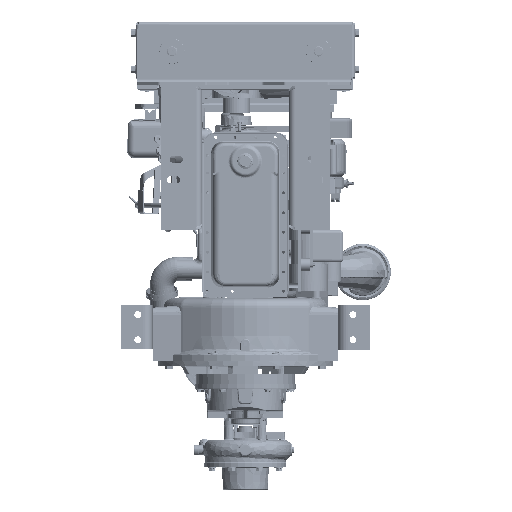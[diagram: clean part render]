
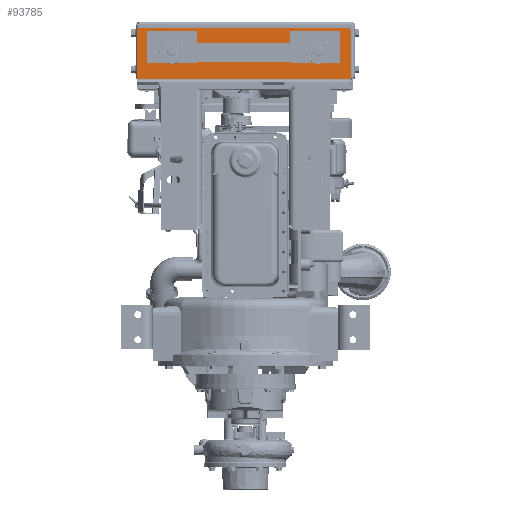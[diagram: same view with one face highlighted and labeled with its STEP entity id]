
A CAD part, front view. The second image highlights one B-rep face of the part: STEP entity #93785.
In plain terms, the highlighted planar face has unit normal (0, -1, 0).
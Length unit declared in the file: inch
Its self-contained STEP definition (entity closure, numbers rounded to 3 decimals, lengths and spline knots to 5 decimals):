
#2931 = LINE ( 'NONE', #409925, #7271 ) ;
#7271 = VECTOR ( 'NONE', #525642, 39.37008 ) ;
#10963 = EDGE_CURVE ( 'NONE', #174806, #541785, #72709, .T. ) ;
#15393 = VECTOR ( 'NONE', #193290, 39.37008 ) ;
#22548 = CARTESIAN_POINT ( 'NONE',  ( -8.63, -4.72, 17.34 ) ) ;
#27121 = CARTESIAN_POINT ( 'NONE',  ( -6.08, -4.72, 19.8849 ) ) ;
#28602 = LINE ( 'NONE', #701151, #124935 ) ;
#30512 = VECTOR ( 'NONE', #666394, 39.37008 ) ;
#34589 = CIRCLE ( 'NONE', #607308, 0.25 ) ;
#41297 = VECTOR ( 'NONE', #658486, 39.37008 ) ;
#41631 = EDGE_CURVE ( 'NONE', #526383, #695589, #485634, .T. ) ;
#49605 = VERTEX_POINT ( 'NONE', #556599 ) ;
#54789 = EDGE_CURVE ( 'NONE', #441894, #124240, #79648, .T. ) ;
#56075 = AXIS2_PLACEMENT_3D ( 'NONE', #243273, #639318, #344244 ) ;
#63020 = DIRECTION ( 'NONE',  ( 0., -1., 0. ) ) ;
#72709 = CIRCLE ( 'NONE', #490207, 0.625 ) ;
#74589 = CARTESIAN_POINT ( 'NONE',  ( 5.82, -4.72, 19.2599 ) ) ;
#79648 = LINE ( 'NONE', #718239, #41297 ) ;
#83544 = EDGE_LOOP ( 'NONE', ( #545011, #354484, #731117, #672378 ) ) ;
#90172 = CARTESIAN_POINT ( 'NONE',  ( 5.82, -4.72, 19.8849 ) ) ;
#93785 = ADVANCED_FACE ( 'NONE', ( #519776, #407699, #523427 ), #190837, .T. ) ;
#100332 = EDGE_CURVE ( 'NONE', #201115, #714350, #454104, .T. ) ;
#123210 = EDGE_CURVE ( 'NONE', #433176, #513199, #333793, .T. ) ;
#124240 = VERTEX_POINT ( 'NONE', #485491 ) ;
#124935 = VECTOR ( 'NONE', #413548, 39.37008 ) ;
#150938 = LINE ( 'NONE', #494531, #30512 ) ;
#174806 = VERTEX_POINT ( 'NONE', #677448 ) ;
#190837 = PLANE ( 'NONE',  #56075 ) ;
#193290 = DIRECTION ( 'NONE',  ( -1., 0., 0. ) ) ;
#194807 = CARTESIAN_POINT ( 'NONE',  ( -6.08, -4.72, 19.2599 ) ) ;
#201115 = VERTEX_POINT ( 'NONE', #225684 ) ;
#213478 = CARTESIAN_POINT ( 'NONE',  ( -8.63, -4.72, 21.1889 ) ) ;
#225684 = CARTESIAN_POINT ( 'NONE',  ( -8.38, -4.72, 21.4389 ) ) ;
#238446 = AXIS2_PLACEMENT_3D ( 'NONE', #90172, #317940, #489756 ) ;
#243273 = CARTESIAN_POINT ( 'NONE',  ( 8.37, -4.72, 21.4389 ) ) ;
#243667 = EDGE_CURVE ( 'NONE', #201115, #695589, #34589, .T. ) ;
#249564 = VECTOR ( 'NONE', #643243, 39.37008 ) ;
#254021 = EDGE_LOOP ( 'NONE', ( #642612, #259344, #728717, #473194, #714386, #540490 ) ) ;
#259344 = ORIENTED_EDGE ( 'NONE', *, *, #243667, .T. ) ;
#265178 = CARTESIAN_POINT ( 'NONE',  ( 5.82, -4.72, 20.5099 ) ) ;
#272884 = CIRCLE ( 'NONE', #630773, 0.625 ) ;
#287088 = DIRECTION ( 'NONE',  ( 1., 0., 0. ) ) ;
#292787 = CARTESIAN_POINT ( 'NONE',  ( 5.57, -4.72, 19.8849 ) ) ;
#293782 = ORIENTED_EDGE ( 'NONE', *, *, #355730, .T. ) ;
#295026 = CARTESIAN_POINT ( 'NONE',  ( 8.37, -4.72, 17.34 ) ) ;
#295340 = DIRECTION ( 'NONE',  ( 0., 1., 0. ) ) ;
#317940 = DIRECTION ( 'NONE',  ( 0., 1., 0. ) ) ;
#333793 = CIRCLE ( 'NONE', #238446, 0.625 ) ;
#344244 = DIRECTION ( 'NONE',  ( 0., 0., -1. ) ) ;
#352503 = DIRECTION ( 'NONE',  ( 0., 1., 0. ) ) ;
#354484 = ORIENTED_EDGE ( 'NONE', *, *, #423540, .F. ) ;
#355730 = EDGE_CURVE ( 'NONE', #555172, #404858, #272884, .T. ) ;
#364208 = VERTEX_POINT ( 'NONE', #378521 ) ;
#378521 = CARTESIAN_POINT ( 'NONE',  ( 5.57, -4.72, 20.5099 ) ) ;
#381801 = CARTESIAN_POINT ( 'NONE',  ( -6.08, -4.72, 20.5099 ) ) ;
#399217 = CARTESIAN_POINT ( 'NONE',  ( 8.12, -4.72, 21.1889 ) ) ;
#404858 = VERTEX_POINT ( 'NONE', #596804 ) ;
#406505 = CIRCLE ( 'NONE', #561639, 0.625 ) ;
#407474 = CARTESIAN_POINT ( 'NONE',  ( -5.83, -4.72, 19.8849 ) ) ;
#407699 = FACE_BOUND ( 'NONE', #487164, .T. ) ;
#409925 = CARTESIAN_POINT ( 'NONE',  ( -5.83, -4.72, 20.5099 ) ) ;
#411817 = EDGE_CURVE ( 'NONE', #174806, #404858, #512689, .T. ) ;
#413548 = DIRECTION ( 'NONE',  ( 1., 0., 0. ) ) ;
#421201 = ORIENTED_EDGE ( 'NONE', *, *, #411817, .F. ) ;
#423540 = EDGE_CURVE ( 'NONE', #433176, #364208, #469887, .T. ) ;
#433176 = VERTEX_POINT ( 'NONE', #265178 ) ;
#441894 = VERTEX_POINT ( 'NONE', #295026 ) ;
#454104 = LINE ( 'NONE', #622251, #512937 ) ;
#469887 = LINE ( 'NONE', #477208, #15393 ) ;
#473194 = ORIENTED_EDGE ( 'NONE', *, *, #735216, .F. ) ;
#475109 = EDGE_CURVE ( 'NONE', #555172, #541785, #2931, .T. ) ;
#477208 = CARTESIAN_POINT ( 'NONE',  ( 5.82, -4.72, 20.5099 ) ) ;
#485491 = CARTESIAN_POINT ( 'NONE',  ( 8.37, -4.72, 21.1889 ) ) ;
#485634 = LINE ( 'NONE', #22548, #731721 ) ;
#487164 = EDGE_LOOP ( 'NONE', ( #569432, #551571, #293782, #421201 ) ) ;
#489756 = DIRECTION ( 'NONE',  ( 0., 0., 1. ) ) ;
#490207 = AXIS2_PLACEMENT_3D ( 'NONE', #27121, #546190, #718083 ) ;
#490448 = CARTESIAN_POINT ( 'NONE',  ( -8.38, -4.72, 21.1889 ) ) ;
#490682 = CARTESIAN_POINT ( 'NONE',  ( -8.63, -4.72, 17.34 ) ) ;
#494531 = CARTESIAN_POINT ( 'NONE',  ( 8.37, -4.72, 17.34 ) ) ;
#512689 = LINE ( 'NONE', #194807, #249564 ) ;
#512937 = VECTOR ( 'NONE', #629637, 39.37008 ) ;
#513199 = VERTEX_POINT ( 'NONE', #74589 ) ;
#516308 = CIRCLE ( 'NONE', #671572, 0.25 ) ;
#519776 = FACE_BOUND ( 'NONE', #83544, .T. ) ;
#523427 = FACE_OUTER_BOUND ( 'NONE', #254021, .T. ) ;
#525642 = DIRECTION ( 'NONE',  ( -1., 0., 0. ) ) ;
#526383 = VERTEX_POINT ( 'NONE', #490682 ) ;
#540490 = ORIENTED_EDGE ( 'NONE', *, *, #570216, .T. ) ;
#541785 = VERTEX_POINT ( 'NONE', #381801 ) ;
#545011 = ORIENTED_EDGE ( 'NONE', *, *, #615162, .T. ) ;
#546190 = DIRECTION ( 'NONE',  ( 0., 1., 0. ) ) ;
#546504 = DIRECTION ( 'NONE',  ( 0., -1., 0. ) ) ;
#551571 = ORIENTED_EDGE ( 'NONE', *, *, #475109, .F. ) ;
#555172 = VERTEX_POINT ( 'NONE', #649257 ) ;
#556599 = CARTESIAN_POINT ( 'NONE',  ( 5.57, -4.72, 19.2599 ) ) ;
#561639 = AXIS2_PLACEMENT_3D ( 'NONE', #292787, #352503, #580433 ) ;
#569432 = ORIENTED_EDGE ( 'NONE', *, *, #10963, .T. ) ;
#570216 = EDGE_CURVE ( 'NONE', #124240, #714350, #516308, .T. ) ;
#580433 = DIRECTION ( 'NONE',  ( 0., 0., -1. ) ) ;
#594042 = DIRECTION ( 'NONE',  ( 0., 0., 1. ) ) ;
#596804 = CARTESIAN_POINT ( 'NONE',  ( -5.83, -4.72, 19.2599 ) ) ;
#598900 = DIRECTION ( 'NONE',  ( 0., 0., 1. ) ) ;
#607308 = AXIS2_PLACEMENT_3D ( 'NONE', #490448, #546504, #598900 ) ;
#615162 = EDGE_CURVE ( 'NONE', #49605, #364208, #406505, .T. ) ;
#622251 = CARTESIAN_POINT ( 'NONE',  ( -8.38, -4.72, 21.4389 ) ) ;
#629637 = DIRECTION ( 'NONE',  ( 1., 0., 0. ) ) ;
#630773 = AXIS2_PLACEMENT_3D ( 'NONE', #407474, #295340, #698804 ) ;
#639318 = DIRECTION ( 'NONE',  ( 0., -1., 0. ) ) ;
#642612 = ORIENTED_EDGE ( 'NONE', *, *, #100332, .F. ) ;
#643243 = DIRECTION ( 'NONE',  ( 1., 0., 0. ) ) ;
#649257 = CARTESIAN_POINT ( 'NONE',  ( -5.83, -4.72, 20.5099 ) ) ;
#658486 = DIRECTION ( 'NONE',  ( 0., 0., 1. ) ) ;
#666394 = DIRECTION ( 'NONE',  ( -1., 0., 0. ) ) ;
#671572 = AXIS2_PLACEMENT_3D ( 'NONE', #399217, #63020, #287088 ) ;
#672378 = ORIENTED_EDGE ( 'NONE', *, *, #733801, .F. ) ;
#677448 = CARTESIAN_POINT ( 'NONE',  ( -6.08, -4.72, 19.2599 ) ) ;
#695589 = VERTEX_POINT ( 'NONE', #213478 ) ;
#698804 = DIRECTION ( 'NONE',  ( 0., 0., 1. ) ) ;
#701151 = CARTESIAN_POINT ( 'NONE',  ( 5.57, -4.72, 19.2599 ) ) ;
#714350 = VERTEX_POINT ( 'NONE', #729028 ) ;
#714386 = ORIENTED_EDGE ( 'NONE', *, *, #54789, .T. ) ;
#718083 = DIRECTION ( 'NONE',  ( 0., 0., -1. ) ) ;
#718239 = CARTESIAN_POINT ( 'NONE',  ( 8.37, -4.72, 17.34 ) ) ;
#728717 = ORIENTED_EDGE ( 'NONE', *, *, #41631, .F. ) ;
#729028 = CARTESIAN_POINT ( 'NONE',  ( 8.12, -4.72, 21.4389 ) ) ;
#731117 = ORIENTED_EDGE ( 'NONE', *, *, #123210, .T. ) ;
#731721 = VECTOR ( 'NONE', #594042, 39.37008 ) ;
#733801 = EDGE_CURVE ( 'NONE', #49605, #513199, #28602, .T. ) ;
#735216 = EDGE_CURVE ( 'NONE', #441894, #526383, #150938, .T. ) ;
